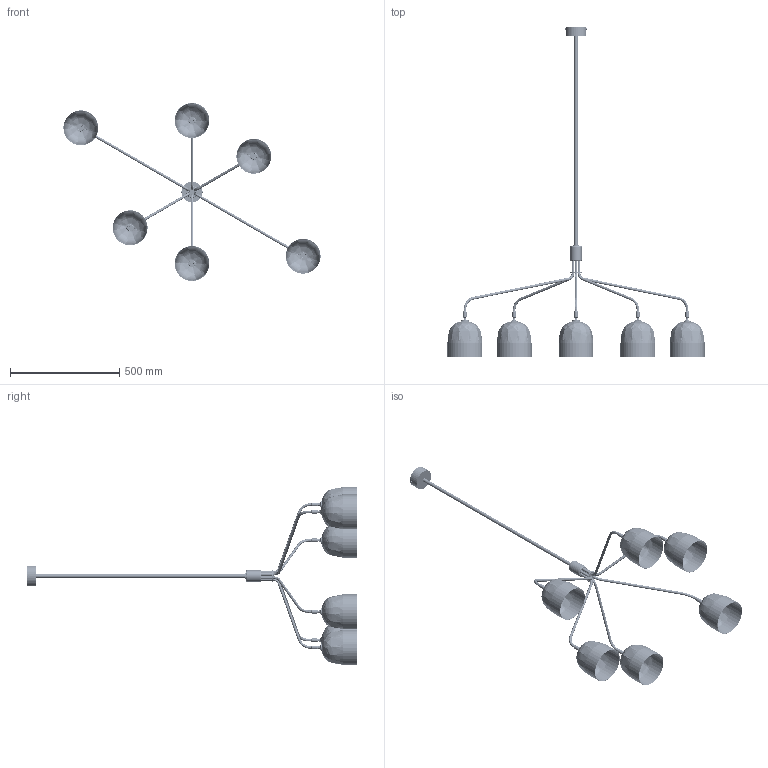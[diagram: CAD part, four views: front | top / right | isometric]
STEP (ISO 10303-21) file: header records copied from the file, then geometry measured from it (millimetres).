
FILE_DESCRIPTION (( 'STEP AP214' ), '1' );
FILE_NAME ('Howard Chandelier 6L.STEP', '2021-08-11T08:19:14', ( '' ), ( '' ), 'SwSTEP 2.0', 'SolidWorks 2021', '' );
FILE_SCHEMA (( 'AUTOMOTIVE_DESIGN' ));
Length unit declared in the file: millimetre
Products named in the file (30): E14腑芛埴綴裔; Howard6裂腑陬璃-001; XCJ-0689; M10蹟譫; M4X6湍賡儂佪; XCJ-0690; 柲階沺蚾饜芞; E14嫖旯腑芛; Howard6裂腑挴諉-001; Howard Chandelier 6L; 柲階沺; Howard6裂腑陬璃-003; 10擅賡; 苤蔥邈氶; M3X3囀鞠褒蹟佪; XCJ-0688; Howard6裂腑腑奪-002; Howard6裂腑呿蹋-001; Howard6裂腑陬璃-002; 毞豪璃窒煦; Howard6裂腑腑奪-004; Howard6裂腑陬璃-005; 腑欶窒煦; Howard6裂腑腑奪-001; M10X15з晚佪籵; Howard6裂腑呿蹋-002; Howard6裂腑陬璃-004; Howard6裂腑菁攫-001; WDZ-1490-A; SB-0740
Assembly tree (64 placements, depth 4):
  Howard Chandelier 6L
    Howard6裂腑陬璃-001
    Howard6裂腑呿蹋-002  x6
    Howard6裂腑陬璃-003  x6
    苤蔥邈氶  x6
    Howard6裂腑腑奪-002  x2
    Howard6裂腑腑奪-004  x4
    Howard6裂腑陬璃-005
    Howard6裂腑呿蹋-001  x6
    毞豪璃窒煦
      Howard6裂腑陬璃-002
      Howard6裂腑腑奪-001
      Howard6裂腑菁攫-001
      Howard6裂腑挴諉-001
      柲階沺蚾饜芞
        柲階沺
      M4X6湍賡儂佪  x2
      M3X3囀鞠褒蹟佪  x2
      10擅賡
      M10X15з晚佪籵
      M10蹟譫
    腑欶窒煦  x6
      Howard6裂腑陬璃-004
      XCJ-0688
      XCJ-0689
      M10蹟譫
      10擅賡
      E14腑芛埴綴裔
      苤蔥邈氶
      E14嫖旯腑芛
      SB-0740
      WDZ-1490-A
      XCJ-0690
Bounding box: 1178.67 x 1514.85 x 814.85 mm (x, y, z)
Volume: 1029910.2 mm3; surface area: 1597415 mm2
Topology: 116 solids, 116 shells, 9494 faces, 25357 edges, 16177 vertices
Faces by surface type: plane 3725, cone 3014, cylinder 2025, bspline 730
Entity records: 71041 total; most frequent: CARTESIAN_POINT 20134, ORIENTED_EDGE 10804, DIRECTION 10086, EDGE_CURVE 5402, AXIS2_PLACEMENT_3D 3964, VERTEX_POINT 3393, EDGE_LOOP 2205, VECTOR 2158
